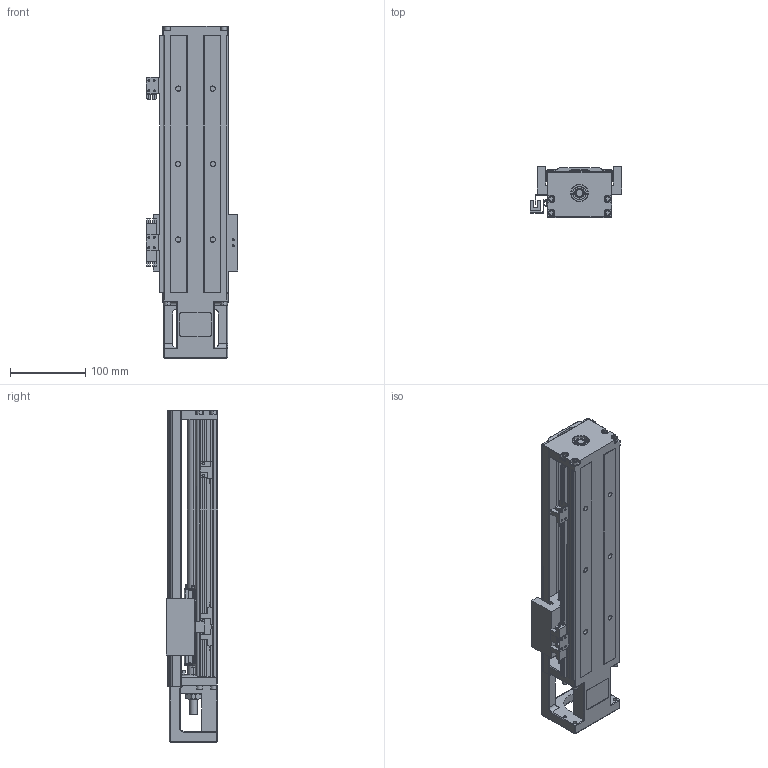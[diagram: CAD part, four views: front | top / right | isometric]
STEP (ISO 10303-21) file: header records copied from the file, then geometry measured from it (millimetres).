
FILE_DESCRIPTION (( 'STEP AP214' ), '1' );
FILE_NAME ('SFKK8620C-340A1-F0CS2.STEP', '2023-02-17T03:25:48', ( '微软用户' ), ( '微软中国' ), 'SwSTEP 2.0', 'SolidWorks 2018', '' );
FILE_SCHEMA (( 'AUTOMOTIVE_DESIGN' ));
Length unit declared in the file: millimetre
Products named in the file (11): 极限轨道与开关固定座组合_340; 开关固定座：KK-674S2-F; SFKK86-A1-C; SFKK86-F0_KKR86-ZT-P-340; SFKK86-LR 憤癹寢耋_340; hexagon socket countersunk head screws gb_GB_FASTENER_SCREWS_HSCHS M3X8-N; SFKK8620C-340A1-F0CS2; SFKK86-CU_340; SX674嫖萇羲壽; 带盖挡光片：KK-86-S2-D1; hexagon socket countersunk head screws gb_GB_FASTENER_SCREWS_HSCHS M4X10-N
Assembly tree (17 placements, depth 3):
  SFKK8620C-340A1-F0CS2
    SFKK86-F0_KKR86-ZT-P-340
    SFKK86-A1-C
    极限轨道与开关固定座组合_340
      SFKK86-LR 憤癹寢耋_340
      开关固定座：KK-674S2-F  x2
    SX674嫖萇羲壽  x3
    带盖挡光片：KK-86-S2-D1
    hexagon socket countersunk head screws gb_GB_FASTENER_SCREWS_HSCHS M3X8-N  x2
    SFKK86-CU_340
    hexagon socket countersunk head screws gb_GB_FASTENER_SCREWS_HSCHS M4X10-N  x4
Bounding box: 121.25 x 68 x 440 mm (x, y, z)
Volume: 1230474.5 mm3; surface area: 373782.9 mm2
Topology: 38 solids, 38 shells, 1881 faces, 4791 edges, 2976 vertices
Faces by surface type: plane 921, cylinder 646, cone 216, torus 71, sphere 23, bspline 4
Entity records: 53731 total; most frequent: CARTESIAN_POINT 11400, DIRECTION 8833, ORIENTED_EDGE 8308, EDGE_CURVE 4154, AXIS2_PLACEMENT_3D 3137, VERTEX_POINT 2650, VECTOR 2559, LINE 2559
